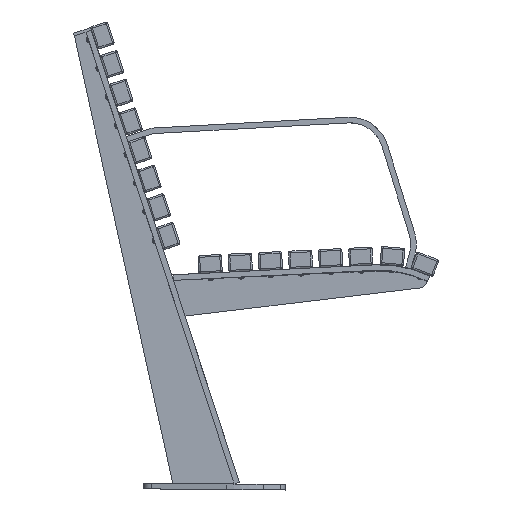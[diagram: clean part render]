
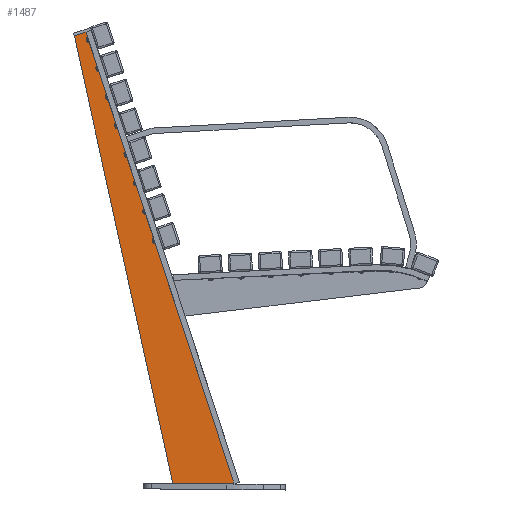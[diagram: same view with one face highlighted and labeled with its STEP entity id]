
A CAD part, left-side view. The second image highlights one B-rep face of the part: STEP entity #1487.
In plain terms, the highlighted planar face has unit normal (-1, 0, 0).
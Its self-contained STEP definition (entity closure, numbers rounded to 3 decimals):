
#1487=ADVANCED_FACE('',(#4291),#43275,.T.);
#4291=FACE_OUTER_BOUND('',#7135,.T.);
#7135=EDGE_LOOP('',(#10637,#10638,#10639,#10640));
#10637=ORIENTED_EDGE('',*,*,#24603,.T.);
#10638=ORIENTED_EDGE('',*,*,#24593,.T.);
#10639=ORIENTED_EDGE('',*,*,#24596,.T.);
#10640=ORIENTED_EDGE('',*,*,#24599,.T.);
#24593=EDGE_CURVE('',#38760,#38759,#31563,.T.);
#24596=EDGE_CURVE('',#38759,#38762,#31566,.T.);
#24599=EDGE_CURVE('',#38762,#38764,#31569,.T.);
#24603=EDGE_CURVE('',#38764,#38760,#31573,.T.);
#31563=B_SPLINE_CURVE_WITH_KNOTS('',1,(#49726,#49727),.UNSPECIFIED.,.F.,
 .F.,(2,2),(0.,2.2),.UNSPECIFIED.);
#31566=B_SPLINE_CURVE_WITH_KNOTS('',1,(#49732,#49733),.UNSPECIFIED.,.F.,
 .F.,(2,2),(0.,82.11),.UNSPECIFIED.);
#31569=B_SPLINE_CURVE_WITH_KNOTS('',1,(#49738,#49739),.UNSPECIFIED.,.F.,
 .F.,(2,2),(0.,10.973),.UNSPECIFIED.);
#31573=B_SPLINE_CURVE_WITH_KNOTS('',1,(#49746,#49747),.UNSPECIFIED.,.F.,
 .F.,(2,2),(0.,85.2),.UNSPECIFIED.);
#38759=VERTEX_POINT('',#49718);
#38760=VERTEX_POINT('',#49719);
#38762=VERTEX_POINT('',#49721);
#38764=VERTEX_POINT('',#49723);
#43275=PLANE('',#46083);
#46083=AXIS2_PLACEMENT_3D('',#49715,#46940,$);
#46940=DIRECTION('',(-1.,0.,0.));
#49715=CARTESIAN_POINT('',(70.,366.188,10.731));
#49718=CARTESIAN_POINT('',(70.,652.375,813.54));
#49719=CARTESIAN_POINT('',(70.,631.469,820.39));
#49721=CARTESIAN_POINT('',(70.,475.929,11.618));
#49723=CARTESIAN_POINT('',(70.,366.201,10.738));
#49726=CARTESIAN_POINT('',(70.,631.469,820.39));
#49727=CARTESIAN_POINT('',(70.,652.375,813.54));
#49732=CARTESIAN_POINT('',(70.,652.375,813.54));
#49733=CARTESIAN_POINT('',(70.,475.929,11.618));
#49738=CARTESIAN_POINT('',(70.,475.929,11.618));
#49739=CARTESIAN_POINT('',(70.,366.201,10.738));
#49746=CARTESIAN_POINT('',(70.,366.201,10.738));
#49747=CARTESIAN_POINT('',(70.,631.469,820.39));
